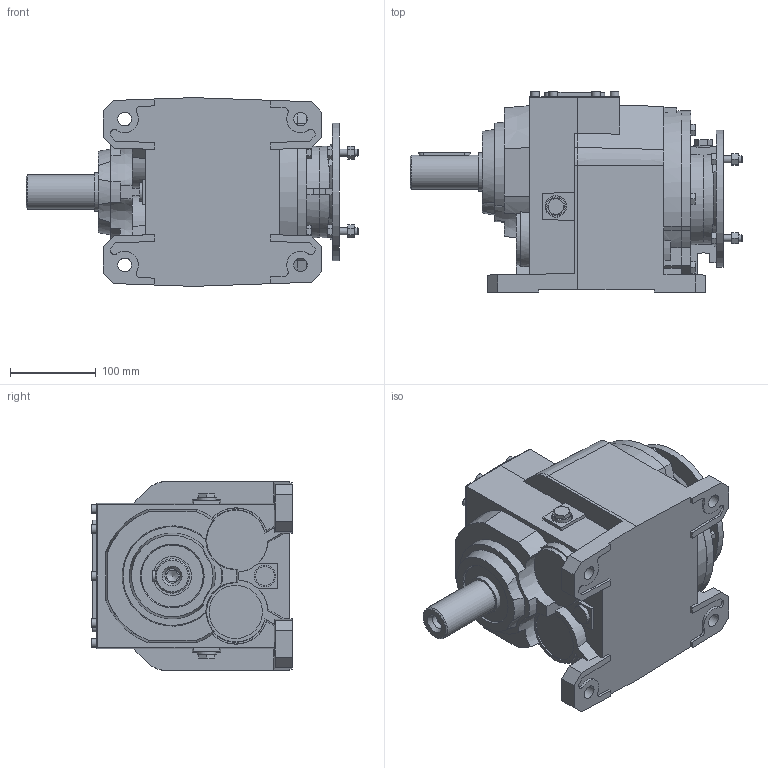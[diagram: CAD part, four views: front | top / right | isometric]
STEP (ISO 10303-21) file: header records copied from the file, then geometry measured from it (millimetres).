
FILE_DESCRIPTION(/* description */ ('STEP AP214'),/* implementation_level */ '2;1');
FILE_NAME(/* name */ 'H063T71 B540x800NO----(-NO----------)',/* time_stamp */ '2024-11-06T10:33:42+01:00',/* author */ ('License CC BY-ND 4.0'),/* organization */ ('CADENAS'),/* preprocessor_version */ 'ST-DEVELOPER v19.3',/* originating_system */ 'PARTsolutions',/* authorisation */ ' ');
FILE_SCHEMA (('AUTOMOTIVE_DESIGN {1 0 10303 214 3 1 1}'));
Length unit declared in the file: millimetre
Products named in the file (5): H063T71 B540x800NO----(-NO----------); 063 T; 063-H-160x14(71 B51); 063-160x14; 063T40-1
Assembly tree (4 placements, depth 2):
  H063T71 B540x800NO----(-NO----------)
    063 T
    063-H-160x14(71 B51)
    063-160x14
    063T40-1
Bounding box: 387 x 234 x 220 mm (x, y, z)
Volume: 9371970.1 mm3; surface area: 459097 mm2
Topology: 4 solids, 4 shells, 538 faces, 1359 edges, 898 vertices
Faces by surface type: plane 386, cylinder 86, cone 65, torus 1
Full cylindrical faces by diameter (mm): 8 x8, 9.412 x3, 10 x10, 13.835 x1, 16 x4, 17 x1, 20 x1, 22 x5, 25 x6, 40 x1, 45 x1, 62 x1, 110 x1, 160 x3
Entity records: 19505 total; most frequent: CARTESIAN_POINT 3064, ORIENTED_EDGE 2578, DIRECTION 2552, EDGE_CURVE 1289, LINE 888, VECTOR 888, VERTEX_POINT 884, AXIS2_PLACEMENT_3D 832
